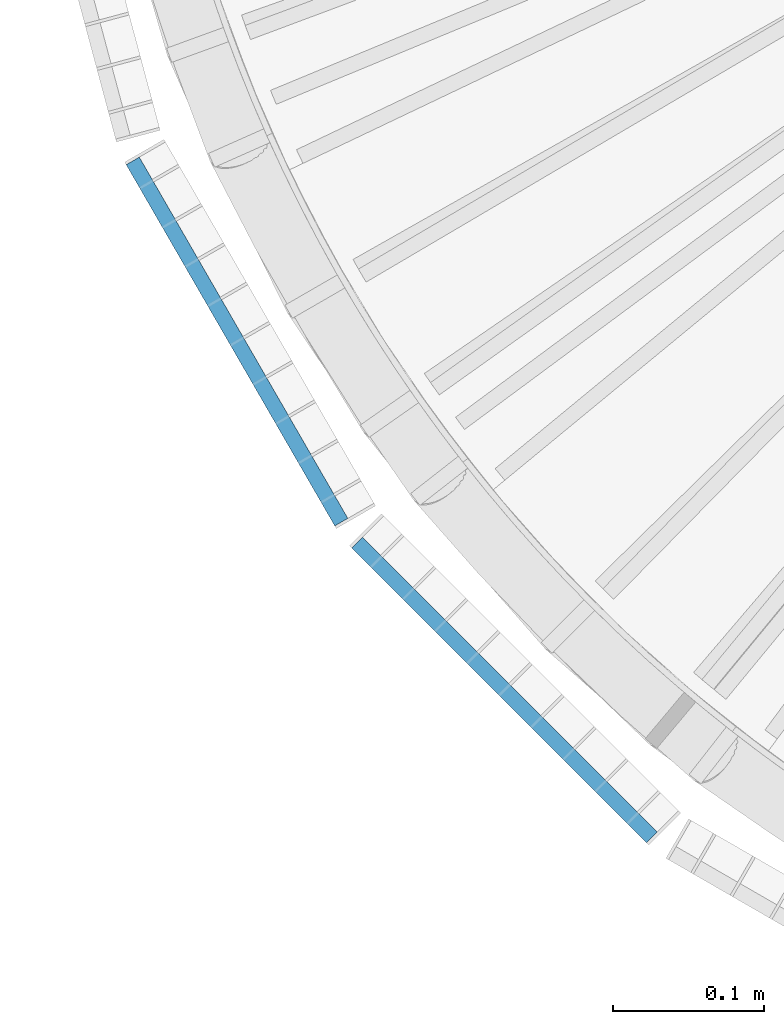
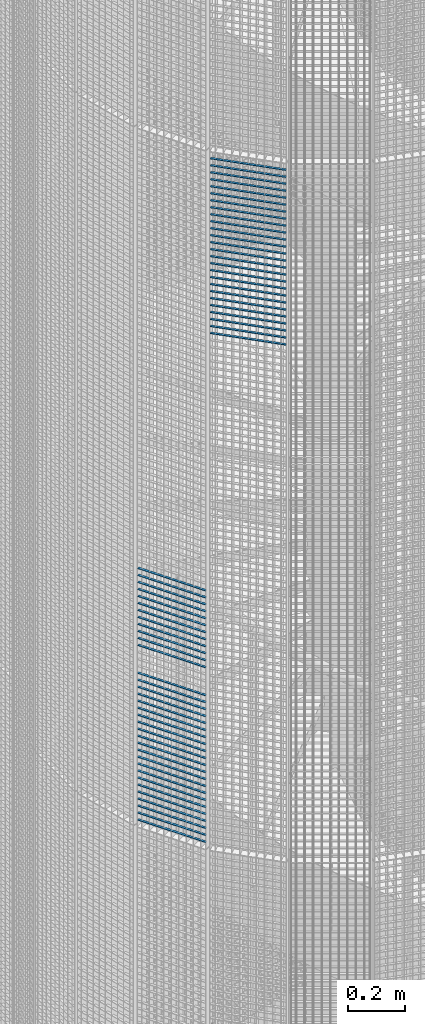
# One storey, part 343 of 1148: 60 beams, 2 elements without a shape of their own.
"""IFC2X3 building model written with IfcOpenShell, lengths in millimetres."""

from ifc_helpers import new_model, si_unit, frame, origin_with_axes, origin_2d_with_axis, place, context, subcontext, project, spatial, rectangle, extrude, material, type_object, element, aggregate, save


model = new_model("IFC2X3")

# Units and contexts
model_context = context("Model", 3, precision=1e-05, world=origin_with_axes())
body_context = subcontext(model_context, "Body", "Model", "MODEL_VIEW")
ifc_project = project(units=[si_unit("LENGTHUNIT", "METRE", prefix="MILLI"), si_unit("AREAUNIT", "SQUARE_METRE"), si_unit("VOLUMEUNIT", "CUBIC_METRE"), si_unit("MASSUNIT", "GRAM", prefix="KILO"), si_unit("TIMEUNIT", "SECOND"), si_unit("PLANEANGLEUNIT", "RADIAN"), si_unit("SOLIDANGLEUNIT", "STERADIAN"), si_unit("THERMODYNAMICTEMPERATUREUNIT", "DEGREE_CELSIUS"), si_unit("LUMINOUSINTENSITYUNIT", "LUMEN")], contexts=[model_context])

# Site, building, storey
site_placement = place(None, origin_with_axes())
site = spatial("IfcSite", under=ifc_project, at=site_placement, Name="Undefined", CompositionType="ELEMENT")
building_placement = place(site_placement, origin_with_axes())
building = spatial("IfcBuilding", under=site, at=building_placement, Name="Undefined", CompositionType="ELEMENT")
storey_placement = place(building_placement, origin_with_axes())
storey = spatial("IfcBuildingStorey", under=building, at=storey_placement, Name="Undefined", CompositionType="ELEMENT", Elevation=0.0)

# Assembly, beams
assembly_1_placement = place(storey_placement, origin_with_axes())
assembly_1 = element("IfcElementAssembly", 1, at=assembly_1_placement, inside=storey, Name="BORDURE", AssemblyPlace="NOTDEFINED", PredefinedType="NOTDEFINED")
ifc_material = material(Name="STEEL/S235JR")
beam_type = type_object("IfcBeamType", Name="PL2*10", PredefinedType="NOTDEFINED")
beam_1_placement = place(assembly_1_placement, frame((20704.6960350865, -676.248044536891, 9660.0), z_axis=(-0.866025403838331, -0.499999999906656, 0.0), x_axis=(-0.49999999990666, 0.866025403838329, 0.0)))
beam_1 = element("IfcBeam", 2, at=beam_1_placement, type_object=beam_type, material=ifc_material, Name="ENTRETOISE", context=body_context, shape_type="SweptSolid", body=[
    extrude(rectangle(XDim=2.0, YDim=10.0, at=origin_2d_with_axis()), frame((275.999999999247, 9.09494701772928e-13, 1.53210777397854e-14), z_axis=(-1.0, 0.0, 0.0), x_axis=(0.0, -1.0, 0.0)), (0.0, 0.0, 1.0), 276.0),
])
beam_2_placement = place(assembly_1_placement, frame((20704.6960350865, -676.248044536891, 9630.0), z_axis=(-0.866025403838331, -0.499999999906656, 0.0), x_axis=(-0.49999999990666, 0.866025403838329, 0.0)))
beam_2 = element("IfcBeam", 3, at=beam_2_placement, type_object=beam_type, material=ifc_material, Name="ENTRETOISE", context=body_context, shape_type="SweptSolid", body=[
    extrude(rectangle(XDim=2.0, YDim=10.0, at=origin_2d_with_axis()), frame((275.999999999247, 9.09494701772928e-13, 1.53210777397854e-14), z_axis=(-1.0, 0.0, 0.0), x_axis=(0.0, -1.0, 0.0)), (0.0, 0.0, 1.0), 276.0),
])
beam_3_placement = place(assembly_1_placement, frame((20704.6960350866, -676.248044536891, 9780.0), z_axis=(-0.866025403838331, -0.499999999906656, 0.0), x_axis=(-0.49999999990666, 0.866025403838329, 0.0)))
beam_3 = element("IfcBeam", 4, at=beam_3_placement, type_object=beam_type, material=ifc_material, Name="ENTRETOISE", context=body_context, shape_type="SweptSolid", body=[
    extrude(rectangle(XDim=2.0, YDim=10.0, at=origin_2d_with_axis()), frame((275.999999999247, 9.09494701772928e-13, 1.53210777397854e-14), z_axis=(-1.0, 0.0, 0.0), x_axis=(0.0, -1.0, 0.0)), (0.0, 0.0, 1.0), 276.0),
])
beam_4_placement = place(assembly_1_placement, frame((20704.6960350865, -676.248044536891, 9600.0), z_axis=(-0.866025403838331, -0.499999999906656, 0.0), x_axis=(-0.49999999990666, 0.866025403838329, 0.0)))
beam_4 = element("IfcBeam", 5, at=beam_4_placement, type_object=beam_type, material=ifc_material, Name="ENTRETOISE", context=body_context, shape_type="SweptSolid", body=[
    extrude(rectangle(XDim=2.0, YDim=10.0, at=origin_2d_with_axis()), frame((275.999999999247, 9.09494701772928e-13, 1.53210777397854e-14), z_axis=(-1.0, 0.0, 0.0), x_axis=(0.0, -1.0, 0.0)), (0.0, 0.0, 1.0), 276.0),
])
beam_5_placement = place(assembly_1_placement, frame((20704.6960350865, -676.248044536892, 9810.0), z_axis=(-0.866025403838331, -0.499999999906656, 0.0), x_axis=(-0.49999999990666, 0.866025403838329, 0.0)))
beam_5 = element("IfcBeam", 6, at=beam_5_placement, type_object=beam_type, material=ifc_material, Name="ENTRETOISE", context=body_context, shape_type="SweptSolid", body=[
    extrude(rectangle(XDim=2.0, YDim=10.0, at=origin_2d_with_axis()), frame((275.999999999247, 9.09494701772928e-13, 1.53210777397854e-14), z_axis=(-1.0, 0.0, 0.0), x_axis=(0.0, -1.0, 0.0)), (0.0, 0.0, 1.0), 276.0),
])
beam_6_placement = place(assembly_1_placement, frame((20704.6960350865, -676.248044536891, 9570.0), z_axis=(-0.866025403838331, -0.499999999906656, 0.0), x_axis=(-0.49999999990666, 0.866025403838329, 0.0)))
beam_6 = element("IfcBeam", 7, at=beam_6_placement, type_object=beam_type, material=ifc_material, Name="ENTRETOISE", context=body_context, shape_type="SweptSolid", body=[
    extrude(rectangle(XDim=2.0, YDim=10.0, at=origin_2d_with_axis()), frame((275.999999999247, 9.09494701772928e-13, 1.53210777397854e-14), z_axis=(-1.0, 0.0, 0.0), x_axis=(0.0, -1.0, 0.0)), (0.0, 0.0, 1.0), 276.0),
])
beam_7_placement = place(assembly_1_placement, frame((20704.6960350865, -676.248044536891, 9540.0), z_axis=(-0.866025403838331, -0.499999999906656, 0.0), x_axis=(-0.49999999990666, 0.866025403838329, 0.0)))
beam_7 = element("IfcBeam", 8, at=beam_7_placement, type_object=beam_type, material=ifc_material, Name="ENTRETOISE", context=body_context, shape_type="SweptSolid", body=[
    extrude(rectangle(XDim=2.0, YDim=10.0, at=origin_2d_with_axis()), frame((275.999999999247, 9.09494701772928e-13, 1.53210777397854e-14), z_axis=(-1.0, 0.0, 0.0), x_axis=(0.0, -1.0, 0.0)), (0.0, 0.0, 1.0), 276.0),
])
beam_8_placement = place(assembly_1_placement, frame((20704.6960350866, -676.248044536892, 9840.0), z_axis=(-0.866025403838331, -0.499999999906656, 0.0), x_axis=(-0.49999999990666, 0.866025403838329, 0.0)))
beam_8 = element("IfcBeam", 9, at=beam_8_placement, type_object=beam_type, material=ifc_material, Name="ENTRETOISE", context=body_context, shape_type="SweptSolid", body=[
    extrude(rectangle(XDim=2.0, YDim=10.0, at=origin_2d_with_axis()), frame((275.999999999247, 9.09494701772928e-13, 1.53210777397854e-14), z_axis=(-1.0, 0.0, 0.0), x_axis=(0.0, -1.0, 0.0)), (0.0, 0.0, 1.0), 276.0),
])
beam_9_placement = place(assembly_1_placement, frame((20704.6960350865, -676.248044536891, 9510.0), z_axis=(-0.866025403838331, -0.499999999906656, 0.0), x_axis=(-0.49999999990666, 0.866025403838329, 0.0)))
beam_9 = element("IfcBeam", 10, at=beam_9_placement, type_object=beam_type, material=ifc_material, Name="ENTRETOISE", context=body_context, shape_type="SweptSolid", body=[
    extrude(rectangle(XDim=2.0, YDim=10.0, at=origin_2d_with_axis()), frame((275.999999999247, 9.09494701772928e-13, 1.53210777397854e-14), z_axis=(-1.0, 0.0, 0.0), x_axis=(0.0, -1.0, 0.0)), (0.0, 0.0, 1.0), 276.0),
])
beam_10_placement = place(assembly_1_placement, frame((20704.6960350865, -676.248044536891, 9480.0), z_axis=(-0.866025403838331, -0.499999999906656, 0.0), x_axis=(-0.49999999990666, 0.866025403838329, 0.0)))
beam_10 = element("IfcBeam", 11, at=beam_10_placement, type_object=beam_type, material=ifc_material, Name="ENTRETOISE", context=body_context, shape_type="SweptSolid", body=[
    extrude(rectangle(XDim=2.0, YDim=10.0, at=origin_2d_with_axis()), frame((275.999999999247, 9.09494701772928e-13, 1.53210777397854e-14), z_axis=(-1.0, 0.0, 0.0), x_axis=(0.0, -1.0, 0.0)), (0.0, 0.0, 1.0), 276.0),
])
beam_11_placement = place(assembly_1_placement, frame((20704.6960350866, -676.248044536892, 9870.0), z_axis=(-0.866025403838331, -0.499999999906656, 0.0), x_axis=(-0.49999999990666, 0.866025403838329, 0.0)))
beam_11 = element("IfcBeam", 12, at=beam_11_placement, type_object=beam_type, material=ifc_material, Name="ENTRETOISE", context=body_context, shape_type="SweptSolid", body=[
    extrude(rectangle(XDim=2.0, YDim=10.0, at=origin_2d_with_axis()), frame((275.999999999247, 9.09494701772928e-13, 1.53210777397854e-14), z_axis=(-1.0, 0.0, 0.0), x_axis=(0.0, -1.0, 0.0)), (0.0, 0.0, 1.0), 276.0),
])
beam_12_placement = place(assembly_1_placement, frame((20704.6960350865, -676.248044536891, 9450.0), z_axis=(-0.866025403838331, -0.499999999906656, 0.0), x_axis=(-0.49999999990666, 0.866025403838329, 0.0)))
beam_12 = element("IfcBeam", 13, at=beam_12_placement, type_object=beam_type, material=ifc_material, Name="ENTRETOISE", context=body_context, shape_type="SweptSolid", body=[
    extrude(rectangle(XDim=2.0, YDim=10.0, at=origin_2d_with_axis()), frame((275.999999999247, 9.09494701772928e-13, 1.53210777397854e-14), z_axis=(-1.0, 0.0, 0.0), x_axis=(0.0, -1.0, 0.0)), (0.0, 0.0, 1.0), 276.0),
])
beam_13_placement = place(assembly_1_placement, frame((20704.6960350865, -676.24804453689, 9420.0), z_axis=(-0.866025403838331, -0.499999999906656, 0.0), x_axis=(-0.49999999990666, 0.866025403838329, 0.0)))
beam_13 = element("IfcBeam", 14, at=beam_13_placement, type_object=beam_type, material=ifc_material, Name="ENTRETOISE", context=body_context, shape_type="SweptSolid", body=[
    extrude(rectangle(XDim=2.0, YDim=10.0, at=origin_2d_with_axis()), frame((275.999999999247, 9.09494701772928e-13, 1.53210777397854e-14), z_axis=(-1.0, 0.0, 0.0), x_axis=(0.0, -1.0, 0.0)), (0.0, 0.0, 1.0), 276.0),
])
beam_14_placement = place(assembly_1_placement, frame((20704.6960350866, -676.248044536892, 9900.0), z_axis=(-0.866025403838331, -0.499999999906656, 0.0), x_axis=(-0.49999999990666, 0.866025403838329, 0.0)))
beam_14 = element("IfcBeam", 15, at=beam_14_placement, type_object=beam_type, material=ifc_material, Name="ENTRETOISE", context=body_context, shape_type="SweptSolid", body=[
    extrude(rectangle(XDim=2.0, YDim=10.0, at=origin_2d_with_axis()), frame((275.999999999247, 9.09494701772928e-13, 1.53210777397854e-14), z_axis=(-1.0, 0.0, 0.0), x_axis=(0.0, -1.0, 0.0)), (0.0, 0.0, 1.0), 276.0),
])
beam_15_placement = place(assembly_1_placement, frame((20704.6960350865, -676.24804453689, 9390.0), z_axis=(-0.866025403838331, -0.499999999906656, 0.0), x_axis=(-0.49999999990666, 0.866025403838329, 0.0)))
beam_15 = element("IfcBeam", 16, at=beam_15_placement, type_object=beam_type, material=ifc_material, Name="ENTRETOISE", context=body_context, shape_type="SweptSolid", body=[
    extrude(rectangle(XDim=2.0, YDim=10.0, at=origin_2d_with_axis()), frame((275.999999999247, 9.09494701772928e-13, 1.53210777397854e-14), z_axis=(-1.0, 0.0, 0.0), x_axis=(0.0, -1.0, 0.0)), (0.0, 0.0, 1.0), 276.0),
])
beam_16_placement = place(assembly_1_placement, frame((20704.6960350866, -676.248044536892, 9930.0), z_axis=(-0.866025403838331, -0.499999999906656, 0.0), x_axis=(-0.49999999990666, 0.866025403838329, 0.0)))
beam_16 = element("IfcBeam", 17, at=beam_16_placement, type_object=beam_type, material=ifc_material, Name="ENTRETOISE", context=body_context, shape_type="SweptSolid", body=[
    extrude(rectangle(XDim=2.0, YDim=10.0, at=origin_2d_with_axis()), frame((275.999999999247, 9.09494701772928e-13, 1.53210777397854e-14), z_axis=(-1.0, 0.0, 0.0), x_axis=(0.0, -1.0, 0.0)), (0.0, 0.0, 1.0), 276.0),
])
beam_17_placement = place(assembly_1_placement, frame((20704.6960350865, -676.24804453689, 9360.0), z_axis=(-0.866025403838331, -0.499999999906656, 0.0), x_axis=(-0.49999999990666, 0.866025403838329, 0.0)))
beam_17 = element("IfcBeam", 18, at=beam_17_placement, type_object=beam_type, material=ifc_material, Name="ENTRETOISE", context=body_context, shape_type="SweptSolid", body=[
    extrude(rectangle(XDim=2.0, YDim=10.0, at=origin_2d_with_axis()), frame((275.999999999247, 9.09494701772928e-13, 1.53210777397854e-14), z_axis=(-1.0, 0.0, 0.0), x_axis=(0.0, -1.0, 0.0)), (0.0, 0.0, 1.0), 276.0),
])
beam_18_placement = place(assembly_1_placement, frame((20704.6960350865, -676.24804453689, 9330.0), z_axis=(-0.866025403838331, -0.499999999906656, 0.0), x_axis=(-0.49999999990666, 0.866025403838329, 0.0)))
beam_18 = element("IfcBeam", 19, at=beam_18_placement, type_object=beam_type, material=ifc_material, Name="ENTRETOISE", context=body_context, shape_type="SweptSolid", body=[
    extrude(rectangle(XDim=2.0, YDim=10.0, at=origin_2d_with_axis()), frame((275.999999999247, 9.09494701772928e-13, 1.53210777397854e-14), z_axis=(-1.0, 0.0, 0.0), x_axis=(0.0, -1.0, 0.0)), (0.0, 0.0, 1.0), 276.0),
])
beam_19_placement = place(assembly_1_placement, frame((20704.6960350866, -676.248044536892, 9960.0), z_axis=(-0.866025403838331, -0.499999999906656, 0.0), x_axis=(-0.49999999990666, 0.866025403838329, 0.0)))
beam_19 = element("IfcBeam", 20, at=beam_19_placement, type_object=beam_type, material=ifc_material, Name="ENTRETOISE", context=body_context, shape_type="SweptSolid", body=[
    extrude(rectangle(XDim=2.0, YDim=10.0, at=origin_2d_with_axis()), frame((275.999999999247, 9.09494701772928e-13, 1.53210777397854e-14), z_axis=(-1.0, 0.0, 0.0), x_axis=(0.0, -1.0, 0.0)), (0.0, 0.0, 1.0), 276.0),
])
beam_20_placement = place(assembly_1_placement, frame((20704.6960350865, -676.24804453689, 9300.0), z_axis=(-0.866025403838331, -0.499999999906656, 0.0), x_axis=(-0.49999999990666, 0.866025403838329, 0.0)))
beam_20 = element("IfcBeam", 21, at=beam_20_placement, type_object=beam_type, material=ifc_material, Name="ENTRETOISE", context=body_context, shape_type="SweptSolid", body=[
    extrude(rectangle(XDim=2.0, YDim=10.0, at=origin_2d_with_axis()), frame((275.999999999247, 9.09494701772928e-13, 1.53210777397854e-14), z_axis=(-1.0, 0.0, 0.0), x_axis=(0.0, -1.0, 0.0)), (0.0, 0.0, 1.0), 276.0),
])
beam_21_placement = place(assembly_1_placement, frame((20704.6960350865, -676.24804453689, 9270.0), z_axis=(-0.866025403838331, -0.499999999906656, 0.0), x_axis=(-0.49999999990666, 0.866025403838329, 0.0)))
beam_21 = element("IfcBeam", 22, at=beam_21_placement, type_object=beam_type, material=ifc_material, Name="ENTRETOISE", context=body_context, shape_type="SweptSolid", body=[
    extrude(rectangle(XDim=2.0, YDim=10.0, at=origin_2d_with_axis()), frame((275.999999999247, 9.09494701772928e-13, 1.53210777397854e-14), z_axis=(-1.0, 0.0, 0.0), x_axis=(0.0, -1.0, 0.0)), (0.0, 0.0, 1.0), 276.0),
])
beam_22_placement = place(assembly_1_placement, frame((20704.6960350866, -676.248044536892, 9990.0), z_axis=(-0.866025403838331, -0.499999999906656, 0.0), x_axis=(-0.49999999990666, 0.866025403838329, 0.0)))
beam_22 = element("IfcBeam", 23, at=beam_22_placement, type_object=beam_type, material=ifc_material, Name="ENTRETOISE", context=body_context, shape_type="SweptSolid", body=[
    extrude(rectangle(XDim=2.0, YDim=10.0, at=origin_2d_with_axis()), frame((275.999999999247, 9.09494701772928e-13, 1.53210777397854e-14), z_axis=(-1.0, 0.0, 0.0), x_axis=(0.0, -1.0, 0.0)), (0.0, 0.0, 1.0), 276.0),
])
beam_23_placement = place(assembly_1_placement, frame((20704.6960350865, -676.24804453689, 9240.0), z_axis=(-0.866025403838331, -0.499999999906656, 0.0), x_axis=(-0.49999999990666, 0.866025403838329, 0.0)))
beam_23 = element("IfcBeam", 24, at=beam_23_placement, type_object=beam_type, material=ifc_material, Name="ENTRETOISE", context=body_context, shape_type="SweptSolid", body=[
    extrude(rectangle(XDim=2.0, YDim=10.0, at=origin_2d_with_axis()), frame((275.999999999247, 9.09494701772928e-13, 1.53210777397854e-14), z_axis=(-1.0, 0.0, 0.0), x_axis=(0.0, -1.0, 0.0)), (0.0, 0.0, 1.0), 276.0),
])
beam_24_placement = place(assembly_1_placement, frame((20704.6960350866, -676.248044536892, 10020.0), z_axis=(-0.866025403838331, -0.499999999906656, 0.0), x_axis=(-0.49999999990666, 0.866025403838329, 0.0)))
beam_24 = element("IfcBeam", 25, at=beam_24_placement, type_object=beam_type, material=ifc_material, Name="ENTRETOISE", context=body_context, shape_type="SweptSolid", body=[
    extrude(rectangle(XDim=2.0, YDim=10.0, at=origin_2d_with_axis()), frame((275.999999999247, 9.09494701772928e-13, 1.53210777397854e-14), z_axis=(-1.0, 0.0, 0.0), x_axis=(0.0, -1.0, 0.0)), (0.0, 0.0, 1.0), 276.0),
])
beam_25_placement = place(assembly_1_placement, frame((20704.6960350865, -676.24804453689, 9210.0), z_axis=(-0.866025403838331, -0.499999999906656, 0.0), x_axis=(-0.49999999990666, 0.866025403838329, 0.0)))
beam_25 = element("IfcBeam", 26, at=beam_25_placement, type_object=beam_type, material=ifc_material, Name="ENTRETOISE", context=body_context, shape_type="SweptSolid", body=[
    extrude(rectangle(XDim=2.0, YDim=10.0, at=origin_2d_with_axis()), frame((275.999999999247, 9.09494701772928e-13, 1.53210777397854e-14), z_axis=(-1.0, 0.0, 0.0), x_axis=(0.0, -1.0, 0.0)), (0.0, 0.0, 1.0), 276.0),
])
beam_26_placement = place(assembly_1_placement, frame((20704.6960350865, -676.24804453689, 9180.0), z_axis=(-0.866025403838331, -0.499999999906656, 0.0), x_axis=(-0.49999999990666, 0.866025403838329, 0.0)))
beam_26 = element("IfcBeam", 27, at=beam_26_placement, type_object=beam_type, material=ifc_material, Name="ENTRETOISE", context=body_context, shape_type="SweptSolid", body=[
    extrude(rectangle(XDim=2.0, YDim=10.0, at=origin_2d_with_axis()), frame((275.999999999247, 9.09494701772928e-13, 1.53210777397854e-14), z_axis=(-1.0, 0.0, 0.0), x_axis=(0.0, -1.0, 0.0)), (0.0, 0.0, 1.0), 276.0),
])
beam_27_placement = place(assembly_1_placement, frame((20704.6960350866, -676.248044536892, 10050.0), z_axis=(-0.866025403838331, -0.499999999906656, 0.0), x_axis=(-0.49999999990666, 0.866025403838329, 0.0)))
beam_27 = element("IfcBeam", 28, at=beam_27_placement, type_object=beam_type, material=ifc_material, Name="ENTRETOISE", context=body_context, shape_type="SweptSolid", body=[
    extrude(rectangle(XDim=2.0, YDim=10.0, at=origin_2d_with_axis()), frame((275.999999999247, 9.09494701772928e-13, 1.53210777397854e-14), z_axis=(-1.0, 0.0, 0.0), x_axis=(0.0, -1.0, 0.0)), (0.0, 0.0, 1.0), 276.0),
])
beam_28_placement = place(assembly_1_placement, frame((20704.6960350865, -676.24804453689, 9150.0), z_axis=(-0.866025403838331, -0.499999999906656, 0.0), x_axis=(-0.49999999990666, 0.866025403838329, 0.0)))
beam_28 = element("IfcBeam", 29, at=beam_28_placement, type_object=beam_type, material=ifc_material, Name="ENTRETOISE", context=body_context, shape_type="SweptSolid", body=[
    extrude(rectangle(XDim=2.0, YDim=10.0, at=origin_2d_with_axis()), frame((275.999999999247, 9.09494701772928e-13, 1.53210777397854e-14), z_axis=(-1.0, 0.0, 0.0), x_axis=(0.0, -1.0, 0.0)), (0.0, 0.0, 1.0), 276.0),
])
beam_29_placement = place(assembly_1_placement, frame((20704.6960350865, -676.24804453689, 9120.0), z_axis=(-0.866025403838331, -0.499999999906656, 0.0), x_axis=(-0.49999999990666, 0.866025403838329, 0.0)))
beam_29 = element("IfcBeam", 30, at=beam_29_placement, type_object=beam_type, material=ifc_material, Name="ENTRETOISE", context=body_context, shape_type="SweptSolid", body=[
    extrude(rectangle(XDim=2.0, YDim=10.0, at=origin_2d_with_axis()), frame((275.999999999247, 9.09494701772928e-13, 1.53210777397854e-14), z_axis=(-1.0, 0.0, 0.0), x_axis=(0.0, -1.0, 0.0)), (0.0, 0.0, 1.0), 276.0),
])
beam_30_placement = place(assembly_1_placement, frame((20704.6960350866, -676.248044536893, 10080.0), z_axis=(-0.866025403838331, -0.499999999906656, 0.0), x_axis=(-0.49999999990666, 0.866025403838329, 0.0)))
beam_30 = element("IfcBeam", 31, at=beam_30_placement, type_object=beam_type, material=ifc_material, Name="ENTRETOISE", context=body_context, shape_type="SweptSolid", body=[
    extrude(rectangle(XDim=2.0, YDim=10.0, at=origin_2d_with_axis()), frame((275.999999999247, 9.09494701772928e-13, 1.53210777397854e-14), z_axis=(-1.0, 0.0, 0.0), x_axis=(0.0, -1.0, 0.0)), (0.0, 0.0, 1.0), 276.0),
])
beam_31_placement = place(assembly_1_placement, frame((20704.6960350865, -676.248044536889, 9090.0), z_axis=(-0.866025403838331, -0.499999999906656, 0.0), x_axis=(-0.49999999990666, 0.866025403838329, 0.0)))
beam_31 = element("IfcBeam", 32, at=beam_31_placement, type_object=beam_type, material=ifc_material, Name="ENTRETOISE", context=body_context, shape_type="SweptSolid", body=[
    extrude(rectangle(XDim=2.0, YDim=10.0, at=origin_2d_with_axis()), frame((275.999999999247, 9.09494701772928e-13, 1.53210777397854e-14), z_axis=(-1.0, 0.0, 0.0), x_axis=(0.0, -1.0, 0.0)), (0.0, 0.0, 1.0), 276.0),
])
beam_32_placement = place(assembly_1_placement, frame((20704.6960350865, -676.248044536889, 9060.0), z_axis=(-0.866025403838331, -0.499999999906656, 0.0), x_axis=(-0.49999999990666, 0.866025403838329, 0.0)))
beam_32 = element("IfcBeam", 33, at=beam_32_placement, type_object=beam_type, material=ifc_material, Name="ENTRETOISE", context=body_context, shape_type="SweptSolid", body=[
    extrude(rectangle(XDim=2.0, YDim=10.0, at=origin_2d_with_axis()), frame((275.999999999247, 9.09494701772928e-13, 1.53210777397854e-14), z_axis=(-1.0, 0.0, 0.0), x_axis=(0.0, -1.0, 0.0)), (0.0, 0.0, 1.0), 276.0),
])
beam_33_placement = place(assembly_1_placement, frame((20704.6960350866, -676.248044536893, 10110.0), z_axis=(-0.866025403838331, -0.499999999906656, 0.0), x_axis=(-0.49999999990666, 0.866025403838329, 0.0)))
beam_33 = element("IfcBeam", 34, at=beam_33_placement, type_object=beam_type, material=ifc_material, Name="ENTRETOISE", context=body_context, shape_type="SweptSolid", body=[
    extrude(rectangle(XDim=2.0, YDim=10.0, at=origin_2d_with_axis()), frame((275.999999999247, 9.09494701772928e-13, 1.53210777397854e-14), z_axis=(-1.0, 0.0, 0.0), x_axis=(0.0, -1.0, 0.0)), (0.0, 0.0, 1.0), 276.0),
])
beam_34_placement = place(assembly_1_placement, frame((20704.6960350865, -676.248044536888, 9030.0), z_axis=(-0.866025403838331, -0.499999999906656, 0.0), x_axis=(-0.49999999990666, 0.866025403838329, 0.0)))
beam_34 = element("IfcBeam", 35, at=beam_34_placement, type_object=beam_type, material=ifc_material, Name="ENTRETOISE", context=body_context, shape_type="SweptSolid", body=[
    extrude(rectangle(XDim=2.0, YDim=10.0, at=origin_2d_with_axis()), frame((275.999999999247, 9.09494701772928e-13, 1.53210777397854e-14), z_axis=(-1.0, 0.0, 0.0), x_axis=(0.0, -1.0, 0.0)), (0.0, 0.0, 1.0), 276.0),
])
aggregate(assembly_1, [beam_1, beam_2, beam_3, beam_4, beam_5, beam_6, beam_7, beam_8, beam_9, beam_10, beam_11, beam_12, beam_13, beam_14, beam_15, beam_16, beam_17, beam_18, beam_19, beam_20, beam_21, beam_22, beam_23, beam_24, beam_25, beam_26, beam_27, beam_28, beam_29, beam_30, beam_31, beam_32, beam_33, beam_34])

assembly_2_placement = place(storey_placement, origin_with_axes())
assembly_2 = element("IfcElementAssembly", 36, at=assembly_2_placement, inside=storey, Name="BORDURE", AssemblyPlace="NOTDEFINED", PredefinedType="NOTDEFINED")
beam_35_placement = place(assembly_2_placement, frame((20910.2286510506, -884.927168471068, 11970.0), z_axis=(-0.70710678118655, -0.707106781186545, 0.0), x_axis=(-0.707106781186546, 0.707106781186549, 0.0)))
beam_35 = element("IfcBeam", 37, at=beam_35_placement, type_object=beam_type, material=ifc_material, Name="ENTRETOISE", context=body_context, shape_type="SweptSolid", body=[
    extrude(rectangle(XDim=2.0, YDim=10.0, at=origin_2d_with_axis()), frame((275.999999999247, 9.09494701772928e-13, 1.53210777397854e-14), z_axis=(-1.0, 0.0, 0.0), x_axis=(0.0, -1.0, 0.0)), (0.0, 0.0, 1.0), 276.0),
])
beam_36_placement = place(assembly_2_placement, frame((20910.2286510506, -884.927168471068, 11940.0), z_axis=(-0.70710678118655, -0.707106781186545, 0.0), x_axis=(-0.707106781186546, 0.707106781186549, 0.0)))
beam_36 = element("IfcBeam", 38, at=beam_36_placement, type_object=beam_type, material=ifc_material, Name="ENTRETOISE", context=body_context, shape_type="SweptSolid", body=[
    extrude(rectangle(XDim=2.0, YDim=10.0, at=origin_2d_with_axis()), frame((275.999999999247, 9.09494701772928e-13, 1.53210777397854e-14), z_axis=(-1.0, 0.0, 0.0), x_axis=(0.0, -1.0, 0.0)), (0.0, 0.0, 1.0), 276.0),
])
beam_37_placement = place(assembly_2_placement, frame((20910.2286510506, -884.927168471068, 11910.0), z_axis=(-0.70710678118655, -0.707106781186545, 0.0), x_axis=(-0.707106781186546, 0.707106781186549, 0.0)))
beam_37 = element("IfcBeam", 39, at=beam_37_placement, type_object=beam_type, material=ifc_material, Name="ENTRETOISE", context=body_context, shape_type="SweptSolid", body=[
    extrude(rectangle(XDim=2.0, YDim=10.0, at=origin_2d_with_axis()), frame((275.999999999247, 9.09494701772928e-13, 1.53210777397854e-14), z_axis=(-1.0, 0.0, 0.0), x_axis=(0.0, -1.0, 0.0)), (0.0, 0.0, 1.0), 276.0),
])
beam_38_placement = place(assembly_2_placement, frame((20910.2286510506, -884.927168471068, 11880.0), z_axis=(-0.70710678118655, -0.707106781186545, 0.0), x_axis=(-0.707106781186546, 0.707106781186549, 0.0)))
beam_38 = element("IfcBeam", 40, at=beam_38_placement, type_object=beam_type, material=ifc_material, Name="ENTRETOISE", context=body_context, shape_type="SweptSolid", body=[
    extrude(rectangle(XDim=2.0, YDim=10.0, at=origin_2d_with_axis()), frame((275.999999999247, 9.09494701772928e-13, 1.53210777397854e-14), z_axis=(-1.0, 0.0, 0.0), x_axis=(0.0, -1.0, 0.0)), (0.0, 0.0, 1.0), 276.0),
])
beam_39_placement = place(assembly_2_placement, frame((20910.2286510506, -884.927168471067, 11850.0), z_axis=(-0.70710678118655, -0.707106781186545, 0.0), x_axis=(-0.707106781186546, 0.707106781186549, 0.0)))
beam_39 = element("IfcBeam", 41, at=beam_39_placement, type_object=beam_type, material=ifc_material, Name="ENTRETOISE", context=body_context, shape_type="SweptSolid", body=[
    extrude(rectangle(XDim=2.0, YDim=10.0, at=origin_2d_with_axis()), frame((275.999999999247, 9.09494701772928e-13, 1.53210777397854e-14), z_axis=(-1.0, 0.0, 0.0), x_axis=(0.0, -1.0, 0.0)), (0.0, 0.0, 1.0), 276.0),
])
beam_40_placement = place(assembly_2_placement, frame((20910.2286510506, -884.927168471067, 11820.0), z_axis=(-0.70710678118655, -0.707106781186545, 0.0), x_axis=(-0.707106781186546, 0.707106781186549, 0.0)))
beam_40 = element("IfcBeam", 42, at=beam_40_placement, type_object=beam_type, material=ifc_material, Name="ENTRETOISE", context=body_context, shape_type="SweptSolid", body=[
    extrude(rectangle(XDim=2.0, YDim=10.0, at=origin_2d_with_axis()), frame((275.999999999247, 9.09494701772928e-13, 1.53210777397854e-14), z_axis=(-1.0, 0.0, 0.0), x_axis=(0.0, -1.0, 0.0)), (0.0, 0.0, 1.0), 276.0),
])
beam_41_placement = place(assembly_2_placement, frame((20910.2286510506, -884.927168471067, 11790.0), z_axis=(-0.70710678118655, -0.707106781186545, 0.0), x_axis=(-0.707106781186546, 0.707106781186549, 0.0)))
beam_41 = element("IfcBeam", 43, at=beam_41_placement, type_object=beam_type, material=ifc_material, Name="ENTRETOISE", context=body_context, shape_type="SweptSolid", body=[
    extrude(rectangle(XDim=2.0, YDim=10.0, at=origin_2d_with_axis()), frame((275.999999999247, 9.09494701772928e-13, 1.53210777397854e-14), z_axis=(-1.0, 0.0, 0.0), x_axis=(0.0, -1.0, 0.0)), (0.0, 0.0, 1.0), 276.0),
])
beam_42_placement = place(assembly_2_placement, frame((20910.2286510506, -884.927168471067, 11760.0), z_axis=(-0.70710678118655, -0.707106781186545, 0.0), x_axis=(-0.707106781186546, 0.707106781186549, 0.0)))
beam_42 = element("IfcBeam", 44, at=beam_42_placement, type_object=beam_type, material=ifc_material, Name="ENTRETOISE", context=body_context, shape_type="SweptSolid", body=[
    extrude(rectangle(XDim=2.0, YDim=10.0, at=origin_2d_with_axis()), frame((275.999999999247, 9.09494701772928e-13, 1.53210777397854e-14), z_axis=(-1.0, 0.0, 0.0), x_axis=(0.0, -1.0, 0.0)), (0.0, 0.0, 1.0), 276.0),
])
beam_43_placement = place(assembly_2_placement, frame((20910.2286510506, -884.927168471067, 11730.0), z_axis=(-0.70710678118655, -0.707106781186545, 0.0), x_axis=(-0.707106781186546, 0.707106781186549, 0.0)))
beam_43 = element("IfcBeam", 45, at=beam_43_placement, type_object=beam_type, material=ifc_material, Name="ENTRETOISE", context=body_context, shape_type="SweptSolid", body=[
    extrude(rectangle(XDim=2.0, YDim=10.0, at=origin_2d_with_axis()), frame((275.999999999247, 9.09494701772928e-13, 1.53210777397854e-14), z_axis=(-1.0, 0.0, 0.0), x_axis=(0.0, -1.0, 0.0)), (0.0, 0.0, 1.0), 276.0),
])
beam_44_placement = place(assembly_2_placement, frame((20910.2286510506, -884.927168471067, 11700.0), z_axis=(-0.70710678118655, -0.707106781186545, 0.0), x_axis=(-0.707106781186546, 0.707106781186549, 0.0)))
beam_44 = element("IfcBeam", 46, at=beam_44_placement, type_object=beam_type, material=ifc_material, Name="ENTRETOISE", context=body_context, shape_type="SweptSolid", body=[
    extrude(rectangle(XDim=2.0, YDim=10.0, at=origin_2d_with_axis()), frame((275.999999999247, 9.09494701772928e-13, 1.53210777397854e-14), z_axis=(-1.0, 0.0, 0.0), x_axis=(0.0, -1.0, 0.0)), (0.0, 0.0, 1.0), 276.0),
])
beam_45_placement = place(assembly_2_placement, frame((20910.2286510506, -884.927168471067, 11670.0), z_axis=(-0.70710678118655, -0.707106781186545, 0.0), x_axis=(-0.707106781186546, 0.707106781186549, 0.0)))
beam_45 = element("IfcBeam", 47, at=beam_45_placement, type_object=beam_type, material=ifc_material, Name="ENTRETOISE", context=body_context, shape_type="SweptSolid", body=[
    extrude(rectangle(XDim=2.0, YDim=10.0, at=origin_2d_with_axis()), frame((275.999999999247, 9.09494701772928e-13, 1.53210777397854e-14), z_axis=(-1.0, 0.0, 0.0), x_axis=(0.0, -1.0, 0.0)), (0.0, 0.0, 1.0), 276.0),
])
beam_46_placement = place(assembly_2_placement, frame((20910.2286510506, -884.927168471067, 11640.0), z_axis=(-0.70710678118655, -0.707106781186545, 0.0), x_axis=(-0.707106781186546, 0.707106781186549, 0.0)))
beam_46 = element("IfcBeam", 48, at=beam_46_placement, type_object=beam_type, material=ifc_material, Name="ENTRETOISE", context=body_context, shape_type="SweptSolid", body=[
    extrude(rectangle(XDim=2.0, YDim=10.0, at=origin_2d_with_axis()), frame((275.999999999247, 9.09494701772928e-13, 1.53210777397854e-14), z_axis=(-1.0, 0.0, 0.0), x_axis=(0.0, -1.0, 0.0)), (0.0, 0.0, 1.0), 276.0),
])
beam_47_placement = place(assembly_2_placement, frame((20910.2286510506, -884.927168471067, 11610.0), z_axis=(-0.70710678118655, -0.707106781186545, 0.0), x_axis=(-0.707106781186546, 0.707106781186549, 0.0)))
beam_47 = element("IfcBeam", 49, at=beam_47_placement, type_object=beam_type, material=ifc_material, Name="ENTRETOISE", context=body_context, shape_type="SweptSolid", body=[
    extrude(rectangle(XDim=2.0, YDim=10.0, at=origin_2d_with_axis()), frame((275.999999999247, 9.09494701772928e-13, 1.53210777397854e-14), z_axis=(-1.0, 0.0, 0.0), x_axis=(0.0, -1.0, 0.0)), (0.0, 0.0, 1.0), 276.0),
])
beam_48_placement = place(assembly_2_placement, frame((20910.2286510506, -884.927168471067, 11580.0), z_axis=(-0.70710678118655, -0.707106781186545, 0.0), x_axis=(-0.707106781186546, 0.707106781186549, 0.0)))
beam_48 = element("IfcBeam", 50, at=beam_48_placement, type_object=beam_type, material=ifc_material, Name="ENTRETOISE", context=body_context, shape_type="SweptSolid", body=[
    extrude(rectangle(XDim=2.0, YDim=10.0, at=origin_2d_with_axis()), frame((275.999999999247, 9.09494701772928e-13, 1.53210777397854e-14), z_axis=(-1.0, 0.0, 0.0), x_axis=(0.0, -1.0, 0.0)), (0.0, 0.0, 1.0), 276.0),
])
beam_49_placement = place(assembly_2_placement, frame((20910.2286510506, -884.927168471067, 11550.0), z_axis=(-0.70710678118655, -0.707106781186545, 0.0), x_axis=(-0.707106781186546, 0.707106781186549, 0.0)))
beam_49 = element("IfcBeam", 51, at=beam_49_placement, type_object=beam_type, material=ifc_material, Name="ENTRETOISE", context=body_context, shape_type="SweptSolid", body=[
    extrude(rectangle(XDim=2.0, YDim=10.0, at=origin_2d_with_axis()), frame((275.999999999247, 9.09494701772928e-13, 1.53210777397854e-14), z_axis=(-1.0, 0.0, 0.0), x_axis=(0.0, -1.0, 0.0)), (0.0, 0.0, 1.0), 276.0),
])
beam_50_placement = place(assembly_2_placement, frame((20910.2286510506, -884.927168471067, 11520.0), z_axis=(-0.70710678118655, -0.707106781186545, 0.0), x_axis=(-0.707106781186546, 0.707106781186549, 0.0)))
beam_50 = element("IfcBeam", 52, at=beam_50_placement, type_object=beam_type, material=ifc_material, Name="ENTRETOISE", context=body_context, shape_type="SweptSolid", body=[
    extrude(rectangle(XDim=2.0, YDim=10.0, at=origin_2d_with_axis()), frame((275.999999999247, 9.09494701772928e-13, 1.53210777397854e-14), z_axis=(-1.0, 0.0, 0.0), x_axis=(0.0, -1.0, 0.0)), (0.0, 0.0, 1.0), 276.0),
])
beam_51_placement = place(assembly_2_placement, frame((20910.2286510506, -884.927168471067, 11490.0), z_axis=(-0.70710678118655, -0.707106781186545, 0.0), x_axis=(-0.707106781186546, 0.707106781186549, 0.0)))
beam_51 = element("IfcBeam", 53, at=beam_51_placement, type_object=beam_type, material=ifc_material, Name="ENTRETOISE", context=body_context, shape_type="SweptSolid", body=[
    extrude(rectangle(XDim=2.0, YDim=10.0, at=origin_2d_with_axis()), frame((275.999999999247, 9.09494701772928e-13, 1.53210777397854e-14), z_axis=(-1.0, 0.0, 0.0), x_axis=(0.0, -1.0, 0.0)), (0.0, 0.0, 1.0), 276.0),
])
beam_52_placement = place(assembly_2_placement, frame((20910.2286510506, -884.927168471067, 11460.0), z_axis=(-0.70710678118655, -0.707106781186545, 0.0), x_axis=(-0.707106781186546, 0.707106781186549, 0.0)))
beam_52 = element("IfcBeam", 54, at=beam_52_placement, type_object=beam_type, material=ifc_material, Name="ENTRETOISE", context=body_context, shape_type="SweptSolid", body=[
    extrude(rectangle(XDim=2.0, YDim=10.0, at=origin_2d_with_axis()), frame((275.999999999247, 9.09494701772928e-13, 1.53210777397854e-14), z_axis=(-1.0, 0.0, 0.0), x_axis=(0.0, -1.0, 0.0)), (0.0, 0.0, 1.0), 276.0),
])
beam_53_placement = place(assembly_2_placement, frame((20910.2286510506, -884.927168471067, 11430.0), z_axis=(-0.70710678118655, -0.707106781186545, 0.0), x_axis=(-0.707106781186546, 0.707106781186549, 0.0)))
beam_53 = element("IfcBeam", 55, at=beam_53_placement, type_object=beam_type, material=ifc_material, Name="ENTRETOISE", context=body_context, shape_type="SweptSolid", body=[
    extrude(rectangle(XDim=2.0, YDim=10.0, at=origin_2d_with_axis()), frame((275.999999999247, 9.09494701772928e-13, 1.53210777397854e-14), z_axis=(-1.0, 0.0, 0.0), x_axis=(0.0, -1.0, 0.0)), (0.0, 0.0, 1.0), 276.0),
])
beam_54_placement = place(assembly_2_placement, frame((20910.2286510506, -884.927168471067, 11400.0), z_axis=(-0.70710678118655, -0.707106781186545, 0.0), x_axis=(-0.707106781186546, 0.707106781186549, 0.0)))
beam_54 = element("IfcBeam", 56, at=beam_54_placement, type_object=beam_type, material=ifc_material, Name="ENTRETOISE", context=body_context, shape_type="SweptSolid", body=[
    extrude(rectangle(XDim=2.0, YDim=10.0, at=origin_2d_with_axis()), frame((275.999999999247, 9.09494701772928e-13, 1.53210777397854e-14), z_axis=(-1.0, 0.0, 0.0), x_axis=(0.0, -1.0, 0.0)), (0.0, 0.0, 1.0), 276.0),
])
beam_55_placement = place(assembly_2_placement, frame((20910.2286510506, -884.927168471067, 11370.0), z_axis=(-0.70710678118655, -0.707106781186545, 0.0), x_axis=(-0.707106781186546, 0.707106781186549, 0.0)))
beam_55 = element("IfcBeam", 57, at=beam_55_placement, type_object=beam_type, material=ifc_material, Name="ENTRETOISE", context=body_context, shape_type="SweptSolid", body=[
    extrude(rectangle(XDim=2.0, YDim=10.0, at=origin_2d_with_axis()), frame((275.999999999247, 9.09494701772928e-13, 1.53210777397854e-14), z_axis=(-1.0, 0.0, 0.0), x_axis=(0.0, -1.0, 0.0)), (0.0, 0.0, 1.0), 276.0),
])
beam_56_placement = place(assembly_2_placement, frame((20910.2286510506, -884.927168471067, 11340.0), z_axis=(-0.70710678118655, -0.707106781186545, 0.0), x_axis=(-0.707106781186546, 0.707106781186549, 0.0)))
beam_56 = element("IfcBeam", 58, at=beam_56_placement, type_object=beam_type, material=ifc_material, Name="ENTRETOISE", context=body_context, shape_type="SweptSolid", body=[
    extrude(rectangle(XDim=2.0, YDim=10.0, at=origin_2d_with_axis()), frame((275.999999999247, 9.09494701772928e-13, 1.53210777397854e-14), z_axis=(-1.0, 0.0, 0.0), x_axis=(0.0, -1.0, 0.0)), (0.0, 0.0, 1.0), 276.0),
])
beam_57_placement = place(assembly_2_placement, frame((20910.2286510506, -884.927168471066, 11310.0), z_axis=(-0.70710678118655, -0.707106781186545, 0.0), x_axis=(-0.707106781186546, 0.707106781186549, 0.0)))
beam_57 = element("IfcBeam", 59, at=beam_57_placement, type_object=beam_type, material=ifc_material, Name="ENTRETOISE", context=body_context, shape_type="SweptSolid", body=[
    extrude(rectangle(XDim=2.0, YDim=10.0, at=origin_2d_with_axis()), frame((275.999999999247, 9.09494701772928e-13, 1.53210777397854e-14), z_axis=(-1.0, 0.0, 0.0), x_axis=(0.0, -1.0, 0.0)), (0.0, 0.0, 1.0), 276.0),
])
beam_58_placement = place(assembly_2_placement, frame((20910.2286510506, -884.927168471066, 11280.0), z_axis=(-0.70710678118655, -0.707106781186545, 0.0), x_axis=(-0.707106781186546, 0.707106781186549, 0.0)))
beam_58 = element("IfcBeam", 60, at=beam_58_placement, type_object=beam_type, material=ifc_material, Name="ENTRETOISE", context=body_context, shape_type="SweptSolid", body=[
    extrude(rectangle(XDim=2.0, YDim=10.0, at=origin_2d_with_axis()), frame((275.999999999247, 9.09494701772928e-13, 1.53210777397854e-14), z_axis=(-1.0, 0.0, 0.0), x_axis=(0.0, -1.0, 0.0)), (0.0, 0.0, 1.0), 276.0),
])
beam_59_placement = place(assembly_2_placement, frame((20910.2286510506, -884.927168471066, 11250.0), z_axis=(-0.70710678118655, -0.707106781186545, 0.0), x_axis=(-0.707106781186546, 0.707106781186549, 0.0)))
beam_59 = element("IfcBeam", 61, at=beam_59_placement, type_object=beam_type, material=ifc_material, Name="ENTRETOISE", context=body_context, shape_type="SweptSolid", body=[
    extrude(rectangle(XDim=2.0, YDim=10.0, at=origin_2d_with_axis()), frame((275.999999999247, 9.09494701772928e-13, 1.53210777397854e-14), z_axis=(-1.0, 0.0, 0.0), x_axis=(0.0, -1.0, 0.0)), (0.0, 0.0, 1.0), 276.0),
])
beam_60_placement = place(assembly_2_placement, frame((20910.2286510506, -884.927168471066, 11220.0), z_axis=(-0.70710678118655, -0.707106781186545, 0.0), x_axis=(-0.707106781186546, 0.707106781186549, 0.0)))
beam_60 = element("IfcBeam", 62, at=beam_60_placement, type_object=beam_type, material=ifc_material, Name="ENTRETOISE", context=body_context, shape_type="SweptSolid", body=[
    extrude(rectangle(XDim=2.0, YDim=10.0, at=origin_2d_with_axis()), frame((275.999999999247, 9.09494701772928e-13, 1.53210777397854e-14), z_axis=(-1.0, 0.0, 0.0), x_axis=(0.0, -1.0, 0.0)), (0.0, 0.0, 1.0), 276.0),
])
aggregate(assembly_2, [beam_35, beam_36, beam_37, beam_38, beam_39, beam_40, beam_41, beam_42, beam_43, beam_44, beam_45, beam_46, beam_47, beam_48, beam_49, beam_50, beam_51, beam_52, beam_53, beam_54, beam_55, beam_56, beam_57, beam_58, beam_59, beam_60])

save(model, "model.ifc")
